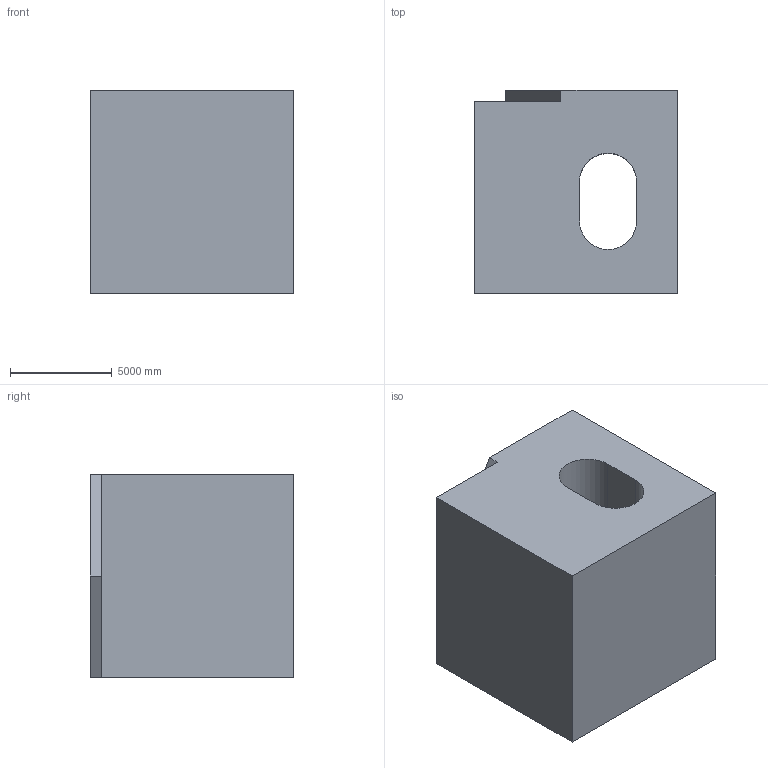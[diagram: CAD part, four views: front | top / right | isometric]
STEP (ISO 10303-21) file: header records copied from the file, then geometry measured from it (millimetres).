
FILE_DESCRIPTION (( 'STEP AP203' ), '1' );
FILE_NAME ('12.STEP', '2022-09-01T11:36:06', ( 'user' ), ( '' ), 'SwSTEP 2.0', 'SolidWorks 2021', '' );
FILE_SCHEMA (( 'CONFIG_CONTROL_DESIGN' ));
Length unit declared in the file: centimetre
Products named in the file (1): 12
Bounding box: 10000 x 10000 x 10000 mm (x, y, z)
Volume: 868145489263.4 mm3; surface area: 699668411.1 mm2
Topology: 1 solids, 1 shells, 13 faces, 33 edges, 22 vertices
Faces by surface type: plane 11, cylinder 2
Entity records: 472 total; most frequent: CARTESIAN_POINT 69, ORIENTED_EDGE 66, DIRECTION 65, EDGE_CURVE 33, VECTOR 29, LINE 29, VERTEX_POINT 22, AXIS2_PLACEMENT_3D 18
